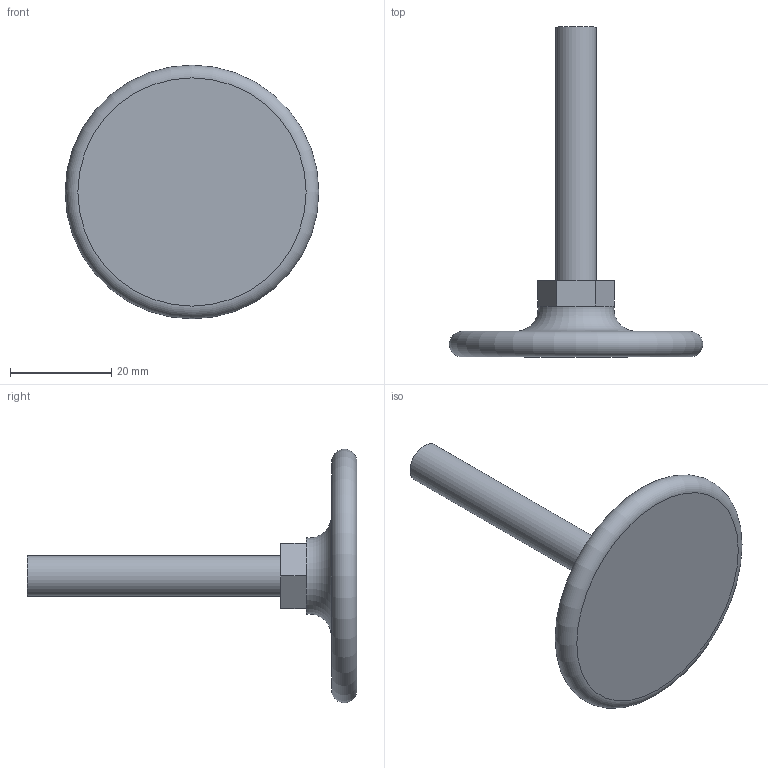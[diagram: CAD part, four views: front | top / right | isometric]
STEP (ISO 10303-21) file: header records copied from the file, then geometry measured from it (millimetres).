
FILE_DESCRIPTION((''),'2;1');
FILE_NAME('C:\Vault Klient\Projekt\100-1110.stp','2009-12-04T07:43:42',('Mathias'),(''),'Autodesk Inventor 2010','Autodesk Inventor 2010','');
FILE_SCHEMA(('CONFIG_CONTROL_DESIGN'));
Length unit declared in the file: millimetre
Products named in the file (1): 100-1110
Bounding box: 49.99 x 65 x 49.99 mm (x, y, z)
Volume: 13759.3 mm3; surface area: 6006 mm2
Topology: 1 solids, 1 shells, 25 faces, 51 edges, 30 vertices
Faces by surface type: plane 22, torus 2, cylinder 1
Full cylindrical faces by diameter (mm): 8 x1
Entity records: 657 total; most frequent: DIRECTION 116, CARTESIAN_POINT 102, ORIENTED_EDGE 94, EDGE_CURVE 47, AXIS2_PLACEMENT_3D 43, EDGE_LOOP 30, VECTOR 30, LINE 30
